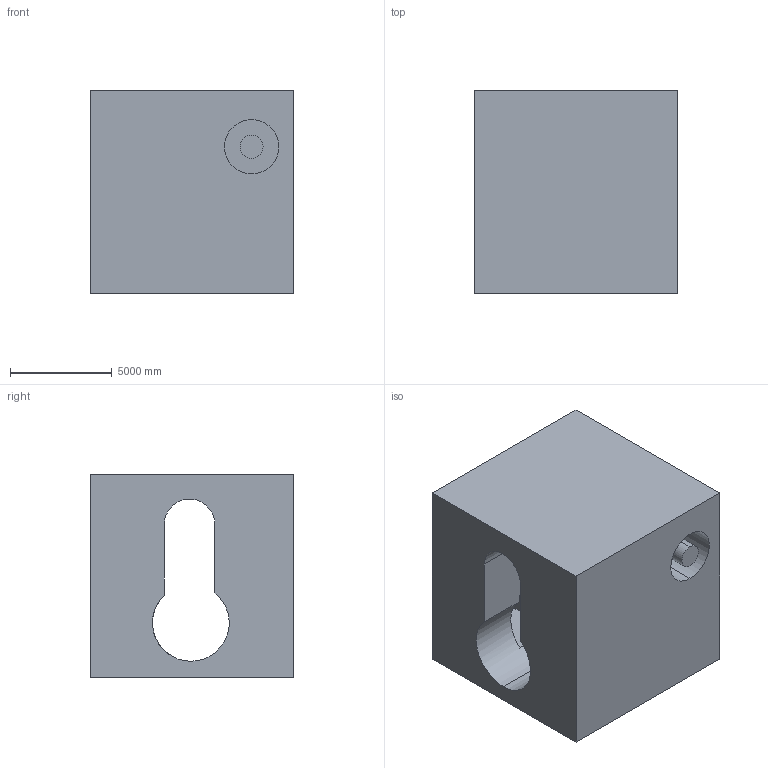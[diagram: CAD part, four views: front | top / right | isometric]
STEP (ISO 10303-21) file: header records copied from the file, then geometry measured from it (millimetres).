
FILE_DESCRIPTION (( 'STEP AP203' ), '1' );
FILE_NAME ('309.STEP', '2022-07-28T14:17:26', ( 'user' ), ( '' ), 'SwSTEP 2.0', 'SolidWorks 2021', '' );
FILE_SCHEMA (( 'CONFIG_CONTROL_DESIGN' ));
Length unit declared in the file: centimetre
Products named in the file (1): 309
Bounding box: 10000 x 10000 x 10000 mm (x, y, z)
Volume: 754577603878.1 mm3; surface area: 801594187.5 mm2
Topology: 1 solids, 1 shells, 22 faces, 57 edges, 38 vertices
Faces by surface type: plane 14, cylinder 8
Entity records: 764 total; most frequent: DIRECTION 121, CARTESIAN_POINT 118, ORIENTED_EDGE 114, EDGE_CURVE 57, AXIS2_PLACEMENT_3D 41, VECTOR 39, LINE 39, VERTEX_POINT 38
